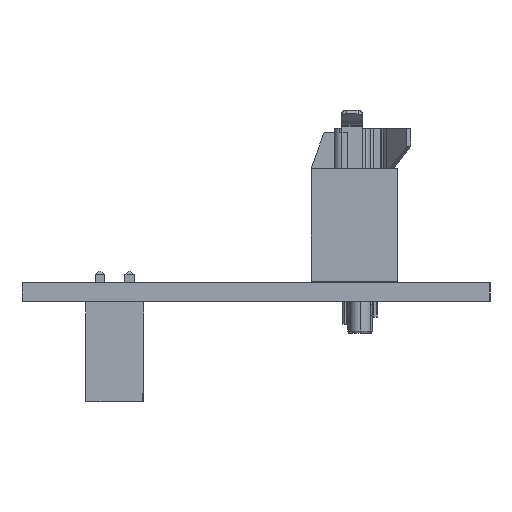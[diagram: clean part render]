
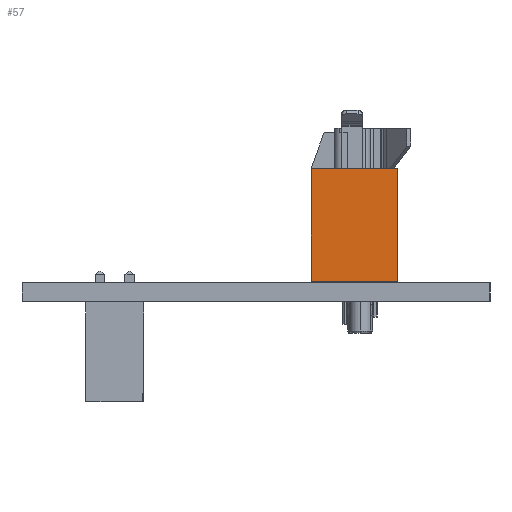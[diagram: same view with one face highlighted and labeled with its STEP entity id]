
A CAD part, left-side view. The second image highlights one B-rep face of the part: STEP entity #57.
In plain terms, the highlighted planar face has unit normal (-1, 0, 0).
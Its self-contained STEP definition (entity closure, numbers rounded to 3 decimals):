
#57 = ADVANCED_FACE('',(#58),#72,.F.);
#58 = FACE_BOUND('',#59,.F.);
#59 = EDGE_LOOP('',(#60,#95,#123,#151));
#60 = ORIENTED_EDGE('',*,*,#61,.T.);
#61 = EDGE_CURVE('',#62,#64,#66,.T.);
#62 = VERTEX_POINT('',#63);
#63 = CARTESIAN_POINT('',(-62.865,4.89,-3.683));
#64 = VERTEX_POINT('',#65);
#65 = CARTESIAN_POINT('',(-62.865,4.89,3.683));
#66 = SURFACE_CURVE('',#67,(#71,#83),.PCURVE_S1.);
#67 = LINE('',#68,#69);
#68 = CARTESIAN_POINT('',(-62.865,4.89,-3.683));
#69 = VECTOR('',#70,1.);
#70 = DIRECTION('',(0.,0.,1.));
#71 = PCURVE('',#72,#77);
#72 = PLANE('',#73);
#73 = AXIS2_PLACEMENT_3D('',#74,#75,#76);
#74 = CARTESIAN_POINT('',(-62.865,0.,0.));
#75 = DIRECTION('',(1.,0.,0.));
#76 = DIRECTION('',(0.,0.,1.));
#77 = DEFINITIONAL_REPRESENTATION('',(#78),#82);
#78 = LINE('',#79,#80);
#79 = CARTESIAN_POINT('',(-3.683,-4.89));
#80 = VECTOR('',#81,1.);
#81 = DIRECTION('',(1.,0.));
#82 = ( GEOMETRIC_REPRESENTATION_CONTEXT(2) 
PARAMETRIC_REPRESENTATION_CONTEXT() REPRESENTATION_CONTEXT('2D SPACE',''
  ) );
#83 = PCURVE('',#84,#89);
#84 = PLANE('',#85);
#85 = AXIS2_PLACEMENT_3D('',#86,#87,#88);
#86 = CARTESIAN_POINT('',(-62.865,4.89,3.81));
#87 = DIRECTION('',(0.,-1.,0.));
#88 = DIRECTION('',(1.,0.,0.));
#89 = DEFINITIONAL_REPRESENTATION('',(#90),#94);
#90 = LINE('',#91,#92);
#91 = CARTESIAN_POINT('',(0.,-7.493));
#92 = VECTOR('',#93,1.);
#93 = DIRECTION('',(0.,1.));
#94 = ( GEOMETRIC_REPRESENTATION_CONTEXT(2) 
PARAMETRIC_REPRESENTATION_CONTEXT() REPRESENTATION_CONTEXT('2D SPACE',''
  ) );
#95 = ORIENTED_EDGE('',*,*,#96,.T.);
#96 = EDGE_CURVE('',#64,#97,#99,.T.);
#97 = VERTEX_POINT('',#98);
#98 = CARTESIAN_POINT('',(-62.865,-4.763,3.683));
#99 = SURFACE_CURVE('',#100,(#104,#111),.PCURVE_S1.);
#100 = LINE('',#101,#102);
#101 = CARTESIAN_POINT('',(-62.865,4.89,3.683));
#102 = VECTOR('',#103,1.);
#103 = DIRECTION('',(0.,-1.,0.));
#104 = PCURVE('',#72,#105);
#105 = DEFINITIONAL_REPRESENTATION('',(#106),#110);
#106 = LINE('',#107,#108);
#107 = CARTESIAN_POINT('',(3.683,-4.89));
#108 = VECTOR('',#109,1.);
#109 = DIRECTION('',(0.,1.));
#110 = ( GEOMETRIC_REPRESENTATION_CONTEXT(2) 
PARAMETRIC_REPRESENTATION_CONTEXT() REPRESENTATION_CONTEXT('2D SPACE',''
  ) );
#111 = PCURVE('',#112,#117);
#112 = PLANE('',#113);
#113 = AXIS2_PLACEMENT_3D('',#114,#115,#116);
#114 = CARTESIAN_POINT('',(-62.865,7.938,3.683));
#115 = DIRECTION('',(0.,0.,1.));
#116 = DIRECTION('',(0.,-1.,0.));
#117 = DEFINITIONAL_REPRESENTATION('',(#118),#122);
#118 = LINE('',#119,#120);
#119 = CARTESIAN_POINT('',(3.048,0.));
#120 = VECTOR('',#121,1.);
#121 = DIRECTION('',(1.,0.));
#122 = ( GEOMETRIC_REPRESENTATION_CONTEXT(2) 
PARAMETRIC_REPRESENTATION_CONTEXT() REPRESENTATION_CONTEXT('2D SPACE',''
  ) );
#123 = ORIENTED_EDGE('',*,*,#124,.T.);
#124 = EDGE_CURVE('',#97,#125,#127,.T.);
#125 = VERTEX_POINT('',#126);
#126 = CARTESIAN_POINT('',(-62.865,-4.763,-3.683));
#127 = SURFACE_CURVE('',#128,(#132,#139),.PCURVE_S1.);
#128 = LINE('',#129,#130);
#129 = CARTESIAN_POINT('',(-62.865,-4.763,3.683));
#130 = VECTOR('',#131,1.);
#131 = DIRECTION('',(0.,0.,-1.));
#132 = PCURVE('',#72,#133);
#133 = DEFINITIONAL_REPRESENTATION('',(#134),#138);
#134 = LINE('',#135,#136);
#135 = CARTESIAN_POINT('',(3.683,4.763));
#136 = VECTOR('',#137,1.);
#137 = DIRECTION('',(-1.,0.));
#138 = ( GEOMETRIC_REPRESENTATION_CONTEXT(2) 
PARAMETRIC_REPRESENTATION_CONTEXT() REPRESENTATION_CONTEXT('2D SPACE',''
  ) );
#139 = PCURVE('',#140,#145);
#140 = PLANE('',#141);
#141 = AXIS2_PLACEMENT_3D('',#142,#143,#144);
#142 = CARTESIAN_POINT('',(-62.865,-4.763,3.683));
#143 = DIRECTION('',(0.,-1.,0.));
#144 = DIRECTION('',(0.,0.,-1.));
#145 = DEFINITIONAL_REPRESENTATION('',(#146),#150);
#146 = LINE('',#147,#148);
#147 = CARTESIAN_POINT('',(0.,0.));
#148 = VECTOR('',#149,1.);
#149 = DIRECTION('',(1.,0.));
#150 = ( GEOMETRIC_REPRESENTATION_CONTEXT(2) 
PARAMETRIC_REPRESENTATION_CONTEXT() REPRESENTATION_CONTEXT('2D SPACE',''
  ) );
#151 = ORIENTED_EDGE('',*,*,#152,.T.);
#152 = EDGE_CURVE('',#125,#62,#153,.T.);
#153 = SURFACE_CURVE('',#154,(#158,#165),.PCURVE_S1.);
#154 = LINE('',#155,#156);
#155 = CARTESIAN_POINT('',(-62.865,-4.763,-3.683));
#156 = VECTOR('',#157,1.);
#157 = DIRECTION('',(0.,1.,0.));
#158 = PCURVE('',#72,#159);
#159 = DEFINITIONAL_REPRESENTATION('',(#160),#164);
#160 = LINE('',#161,#162);
#161 = CARTESIAN_POINT('',(-3.683,4.763));
#162 = VECTOR('',#163,1.);
#163 = DIRECTION('',(0.,-1.));
#164 = ( GEOMETRIC_REPRESENTATION_CONTEXT(2) 
PARAMETRIC_REPRESENTATION_CONTEXT() REPRESENTATION_CONTEXT('2D SPACE',''
  ) );
#165 = PCURVE('',#166,#171);
#166 = PLANE('',#167);
#167 = AXIS2_PLACEMENT_3D('',#168,#169,#170);
#168 = CARTESIAN_POINT('',(-62.865,-4.763,-3.683));
#169 = DIRECTION('',(0.,0.,-1.));
#170 = DIRECTION('',(0.,1.,0.));
#171 = DEFINITIONAL_REPRESENTATION('',(#172),#176);
#172 = LINE('',#173,#174);
#173 = CARTESIAN_POINT('',(0.,0.));
#174 = VECTOR('',#175,1.);
#175 = DIRECTION('',(1.,0.));
#176 = ( GEOMETRIC_REPRESENTATION_CONTEXT(2) 
PARAMETRIC_REPRESENTATION_CONTEXT() REPRESENTATION_CONTEXT('2D SPACE',''
  ) );
